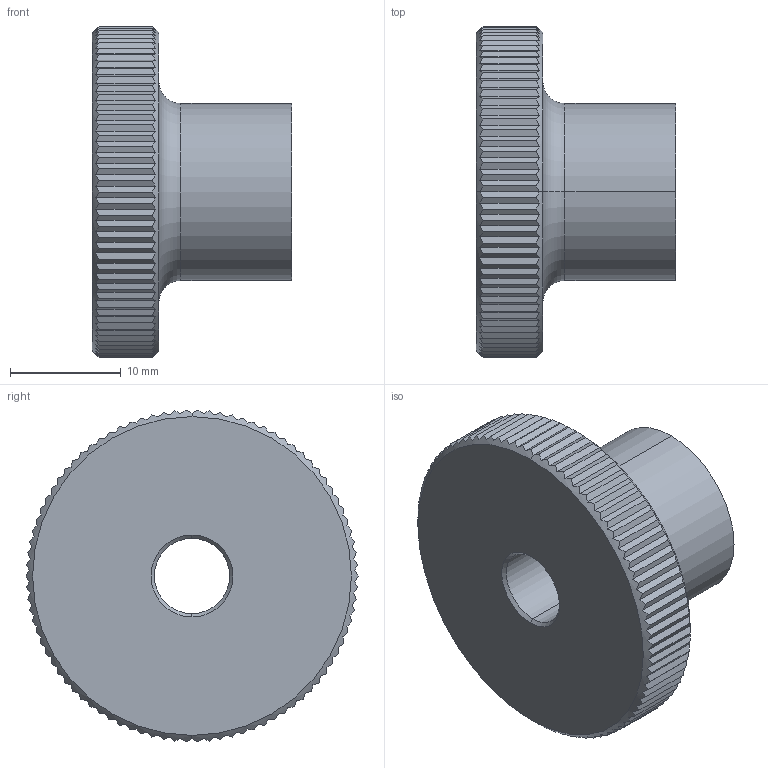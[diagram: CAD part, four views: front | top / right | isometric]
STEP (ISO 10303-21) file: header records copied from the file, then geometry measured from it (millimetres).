
FILE_DESCRIPTION (( 'STEP AP203' ), '1' );
FILE_NAME ('37100.W0008.step', '2015-11-25T13:24:53', ( 'User' ), ( '' ), 'SwSTEP 2.0', 'SolidWorks 2009', '' );
FILE_SCHEMA (( 'CONFIG_CONTROL_DESIGN' ));
Length unit declared in the file: millimetre
Products named in the file (1): 37100.W0008
Bounding box: 18 x 30 x 29.98 mm (x, y, z)
Volume: 5941.1 mm3; surface area: 2832.1 mm2
Topology: 1 solids, 1 shells, 197 faces, 572 edges, 378 vertices
Faces by surface type: plane 183, cone 8, cylinder 4, torus 2
Entity records: 6807 total; most frequent: CARTESIAN_POINT 2228, ORIENTED_EDGE 1144, DIRECTION 628, EDGE_CURVE 572, VERTEX_POINT 378, B_SPLINE_CURVE_WITH_KNOTS 360, AXIS2_PLACEMENT_3D 218, EDGE_LOOP 200
